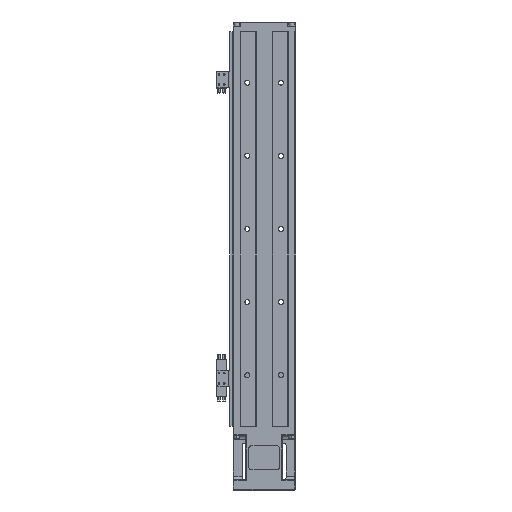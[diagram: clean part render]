
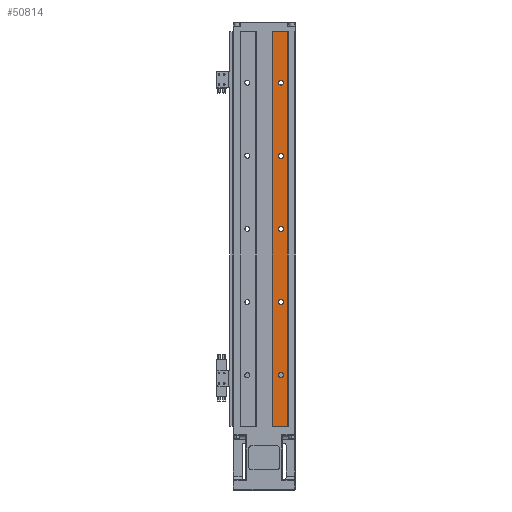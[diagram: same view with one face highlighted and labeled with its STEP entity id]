
A CAD part, front view. The second image highlights one B-rep face of the part: STEP entity #50814.
In plain terms, the highlighted planar face has unit normal (0, -1, 0).
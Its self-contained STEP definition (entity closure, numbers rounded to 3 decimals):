
#406 = CIRCLE ( 'NONE', #15253, 3.5 ) ;
#1174 = ORIENTED_EDGE ( 'NONE', *, *, #38797, .F. ) ;
#1251 = EDGE_CURVE ( 'NONE', #39808, #2798, #3832, .T. ) ;
#2344 = CARTESIAN_POINT ( 'NONE',  ( 23., 0., 273.5 ) ) ;
#2798 = VERTEX_POINT ( 'NONE', #30175 ) ;
#2840 = DIRECTION ( 'NONE',  ( 0., 0., -1. ) ) ;
#3165 = ORIENTED_EDGE ( 'NONE', *, *, #10634, .T. ) ;
#3419 = VERTEX_POINT ( 'NONE', #46107 ) ;
#3459 = EDGE_LOOP ( 'NONE', ( #51560, #39289 ) ) ;
#3832 = CIRCLE ( 'NONE', #25421, 3.5 ) ;
#3987 = EDGE_CURVE ( 'NONE', #20062, #18955, #28435, .T. ) ;
#4034 = CARTESIAN_POINT ( 'NONE',  ( 23., 0., 366.5 ) ) ;
#4309 = EDGE_LOOP ( 'NONE', ( #3165, #22626 ) ) ;
#4819 = ORIENTED_EDGE ( 'NONE', *, *, #8392, .T. ) ;
#5607 = EDGE_CURVE ( 'NONE', #3419, #16762, #44584, .T. ) ;
#5885 = VECTOR ( 'NONE', #8921, 1000. ) ;
#6501 = CARTESIAN_POINT ( 'NONE',  ( 23., 0., 270. ) ) ;
#6611 = EDGE_CURVE ( 'NONE', #16762, #34828, #32377, .T. ) ;
#7068 = CIRCLE ( 'NONE', #9592, 3.5 ) ;
#7164 = DIRECTION ( 'NONE',  ( 0., 1., 0. ) ) ;
#7697 = EDGE_CURVE ( 'NONE', #16899, #9109, #37284, .T. ) ;
#7717 = AXIS2_PLACEMENT_3D ( 'NONE', #28946, #40912, #25205 ) ;
#7872 = DIRECTION ( 'NONE',  ( -1., 0., 0. ) ) ;
#7943 = CARTESIAN_POINT ( 'NONE',  ( 23., 0., 266.5 ) ) ;
#8121 = DIRECTION ( 'NONE',  ( 0., 0., -1. ) ) ;
#8392 = EDGE_CURVE ( 'NONE', #2798, #39808, #15699, .T. ) ;
#8921 = DIRECTION ( 'NONE',  ( -1., 0., 0. ) ) ;
#8995 = LINE ( 'NONE', #12118, #30460 ) ;
#9109 = VERTEX_POINT ( 'NONE', #2344 ) ;
#9592 = AXIS2_PLACEMENT_3D ( 'NONE', #29023, #13484, #16808 ) ;
#9756 = CARTESIAN_POINT ( 'NONE',  ( 23., 0., 73.5 ) ) ;
#9775 = VERTEX_POINT ( 'NONE', #23601 ) ;
#9793 = CARTESIAN_POINT ( 'NONE',  ( 23., 0., 370. ) ) ;
#10217 = CARTESIAN_POINT ( 'NONE',  ( 23., 0., 270. ) ) ;
#10634 = EDGE_CURVE ( 'NONE', #21843, #40600, #7068, .T. ) ;
#11215 = DIRECTION ( 'NONE',  ( 0., 1., 0. ) ) ;
#12118 = CARTESIAN_POINT ( 'NONE',  ( 11.5, 0., 540. ) ) ;
#13484 = DIRECTION ( 'NONE',  ( 0., 1., 0. ) ) ;
#14271 = AXIS2_PLACEMENT_3D ( 'NONE', #36334, #16355, #8121 ) ;
#15253 = AXIS2_PLACEMENT_3D ( 'NONE', #28511, #49082, #16486 ) ;
#15300 = CARTESIAN_POINT ( 'NONE',  ( 32.5, 0., 0. ) ) ;
#15699 = CIRCLE ( 'NONE', #32561, 3.5 ) ;
#16355 = DIRECTION ( 'NONE',  ( 0., -1., 0. ) ) ;
#16486 = DIRECTION ( 'NONE',  ( 0., 0., -1. ) ) ;
#16762 = VERTEX_POINT ( 'NONE', #15300 ) ;
#16808 = DIRECTION ( 'NONE',  ( 0., 0., -1. ) ) ;
#16899 = VERTEX_POINT ( 'NONE', #7943 ) ;
#17570 = DIRECTION ( 'NONE',  ( 0., 0., -1. ) ) ;
#18955 = VERTEX_POINT ( 'NONE', #21296 ) ;
#19445 = CARTESIAN_POINT ( 'NONE',  ( 23., 0., 370. ) ) ;
#20062 = VERTEX_POINT ( 'NONE', #36403 ) ;
#20666 = ORIENTED_EDGE ( 'NONE', *, *, #6611, .F. ) ;
#20768 = EDGE_CURVE ( 'NONE', #48485, #44376, #33914, .T. ) ;
#21296 = CARTESIAN_POINT ( 'NONE',  ( 23., 0., 466.5 ) ) ;
#21820 = DIRECTION ( 'NONE',  ( 0., 0., -1. ) ) ;
#21843 = VERTEX_POINT ( 'NONE', #50428 ) ;
#21967 = AXIS2_PLACEMENT_3D ( 'NONE', #43782, #11215, #31510 ) ;
#22228 = CIRCLE ( 'NONE', #47586, 3.5 ) ;
#22626 = ORIENTED_EDGE ( 'NONE', *, *, #36145, .T. ) ;
#22895 = FACE_BOUND ( 'NONE', #37958, .T. ) ;
#23601 = CARTESIAN_POINT ( 'NONE',  ( 11.5, 0., 540. ) ) ;
#24417 = EDGE_LOOP ( 'NONE', ( #20666, #37192, #37869, #1174 ) ) ;
#25205 = DIRECTION ( 'NONE',  ( 0., 0., -1. ) ) ;
#25381 = ORIENTED_EDGE ( 'NONE', *, *, #51260, .T. ) ;
#25421 = AXIS2_PLACEMENT_3D ( 'NONE', #19445, #7164, #44096 ) ;
#25600 = CARTESIAN_POINT ( 'NONE',  ( 23., 0., 173.5 ) ) ;
#25810 = LINE ( 'NONE', #48182, #45976 ) ;
#26316 = AXIS2_PLACEMENT_3D ( 'NONE', #30139, #34732, #21820 ) ;
#26463 = DIRECTION ( 'NONE',  ( 0., 0., -1. ) ) ;
#28435 = CIRCLE ( 'NONE', #7717, 3.5 ) ;
#28511 = CARTESIAN_POINT ( 'NONE',  ( 23., 0., 70. ) ) ;
#28839 = CARTESIAN_POINT ( 'NONE',  ( 43., 0., 0. ) ) ;
#28946 = CARTESIAN_POINT ( 'NONE',  ( 23., 0., 470. ) ) ;
#29023 = CARTESIAN_POINT ( 'NONE',  ( 23., 0., 170. ) ) ;
#30139 = CARTESIAN_POINT ( 'NONE',  ( 23., 0., 70. ) ) ;
#30147 = CARTESIAN_POINT ( 'NONE',  ( 23., 0., 66.5 ) ) ;
#30175 = CARTESIAN_POINT ( 'NONE',  ( 23., 0., 373.5 ) ) ;
#30250 = DIRECTION ( 'NONE',  ( 0., 1., 0. ) ) ;
#30321 = DIRECTION ( 'NONE',  ( 0., 1., 0. ) ) ;
#30460 = VECTOR ( 'NONE', #40832, 1000. ) ;
#30527 = CARTESIAN_POINT ( 'NONE',  ( 23., 0., 170. ) ) ;
#31510 = DIRECTION ( 'NONE',  ( 0., 0., -1. ) ) ;
#32377 = LINE ( 'NONE', #28839, #5885 ) ;
#32561 = AXIS2_PLACEMENT_3D ( 'NONE', #9793, #30250, #34321 ) ;
#33914 = CIRCLE ( 'NONE', #26316, 3.5 ) ;
#34266 = CARTESIAN_POINT ( 'NONE',  ( 32.5, 0., 540. ) ) ;
#34321 = DIRECTION ( 'NONE',  ( 0., 0., -1. ) ) ;
#34732 = DIRECTION ( 'NONE',  ( 0., 1., 0. ) ) ;
#34828 = VERTEX_POINT ( 'NONE', #37138 ) ;
#35534 = FACE_BOUND ( 'NONE', #52262, .T. ) ;
#36107 = CIRCLE ( 'NONE', #47653, 3.5 ) ;
#36145 = EDGE_CURVE ( 'NONE', #40600, #21843, #22228, .T. ) ;
#36208 = FACE_BOUND ( 'NONE', #3459, .T. ) ;
#36334 = CARTESIAN_POINT ( 'NONE',  ( 43., 0., 540. ) ) ;
#36403 = CARTESIAN_POINT ( 'NONE',  ( 23., 0., 473.5 ) ) ;
#37138 = CARTESIAN_POINT ( 'NONE',  ( 11.5, 0., 0. ) ) ;
#37192 = ORIENTED_EDGE ( 'NONE', *, *, #5607, .F. ) ;
#37284 = CIRCLE ( 'NONE', #46340, 3.5 ) ;
#37422 = EDGE_CURVE ( 'NONE', #44376, #48485, #406, .T. ) ;
#37688 = DIRECTION ( 'NONE',  ( 0., 1., 0. ) ) ;
#37869 = ORIENTED_EDGE ( 'NONE', *, *, #40414, .T. ) ;
#37958 = EDGE_LOOP ( 'NONE', ( #48023, #4819 ) ) ;
#38797 = EDGE_CURVE ( 'NONE', #34828, #9775, #8995, .T. ) ;
#38882 = DIRECTION ( 'NONE',  ( 0., 0., -1. ) ) ;
#39289 = ORIENTED_EDGE ( 'NONE', *, *, #20768, .T. ) ;
#39808 = VERTEX_POINT ( 'NONE', #4034 ) ;
#40414 = EDGE_CURVE ( 'NONE', #3419, #9775, #25810, .T. ) ;
#40600 = VERTEX_POINT ( 'NONE', #25600 ) ;
#40832 = DIRECTION ( 'NONE',  ( 0., 0., 1. ) ) ;
#40912 = DIRECTION ( 'NONE',  ( 0., 1., 0. ) ) ;
#41410 = CIRCLE ( 'NONE', #21967, 3.5 ) ;
#42791 = DIRECTION ( 'NONE',  ( 0., 1., 0. ) ) ;
#43782 = CARTESIAN_POINT ( 'NONE',  ( 23., 0., 470. ) ) ;
#44096 = DIRECTION ( 'NONE',  ( 0., 0., -1. ) ) ;
#44319 = FACE_BOUND ( 'NONE', #4309, .T. ) ;
#44376 = VERTEX_POINT ( 'NONE', #30147 ) ;
#44584 = LINE ( 'NONE', #34266, #45198 ) ;
#44685 = EDGE_LOOP ( 'NONE', ( #44798, #47646 ) ) ;
#44798 = ORIENTED_EDGE ( 'NONE', *, *, #49541, .T. ) ;
#45198 = VECTOR ( 'NONE', #26463, 1000. ) ;
#45976 = VECTOR ( 'NONE', #7872, 1000. ) ;
#46107 = CARTESIAN_POINT ( 'NONE',  ( 32.5, 0., 540. ) ) ;
#46219 = FACE_OUTER_BOUND ( 'NONE', #24417, .T. ) ;
#46340 = AXIS2_PLACEMENT_3D ( 'NONE', #10217, #37688, #17570 ) ;
#47586 = AXIS2_PLACEMENT_3D ( 'NONE', #30527, #42791, #2840 ) ;
#47646 = ORIENTED_EDGE ( 'NONE', *, *, #3987, .T. ) ;
#47653 = AXIS2_PLACEMENT_3D ( 'NONE', #6501, #30321, #38882 ) ;
#48023 = ORIENTED_EDGE ( 'NONE', *, *, #1251, .T. ) ;
#48182 = CARTESIAN_POINT ( 'NONE',  ( 43., 0., 540. ) ) ;
#48485 = VERTEX_POINT ( 'NONE', #9756 ) ;
#49082 = DIRECTION ( 'NONE',  ( 0., 1., 0. ) ) ;
#49541 = EDGE_CURVE ( 'NONE', #18955, #20062, #41410, .T. ) ;
#50428 = CARTESIAN_POINT ( 'NONE',  ( 23., 0., 166.5 ) ) ;
#50814 = ADVANCED_FACE ( 'NONE', ( #46219, #51270, #22895, #35534, #44319, #36208 ), #51988, .T. ) ;
#51260 = EDGE_CURVE ( 'NONE', #9109, #16899, #36107, .T. ) ;
#51270 = FACE_BOUND ( 'NONE', #44685, .T. ) ;
#51560 = ORIENTED_EDGE ( 'NONE', *, *, #37422, .T. ) ;
#51627 = ORIENTED_EDGE ( 'NONE', *, *, #7697, .T. ) ;
#51988 = PLANE ( 'NONE',  #14271 ) ;
#52262 = EDGE_LOOP ( 'NONE', ( #51627, #25381 ) ) ;
